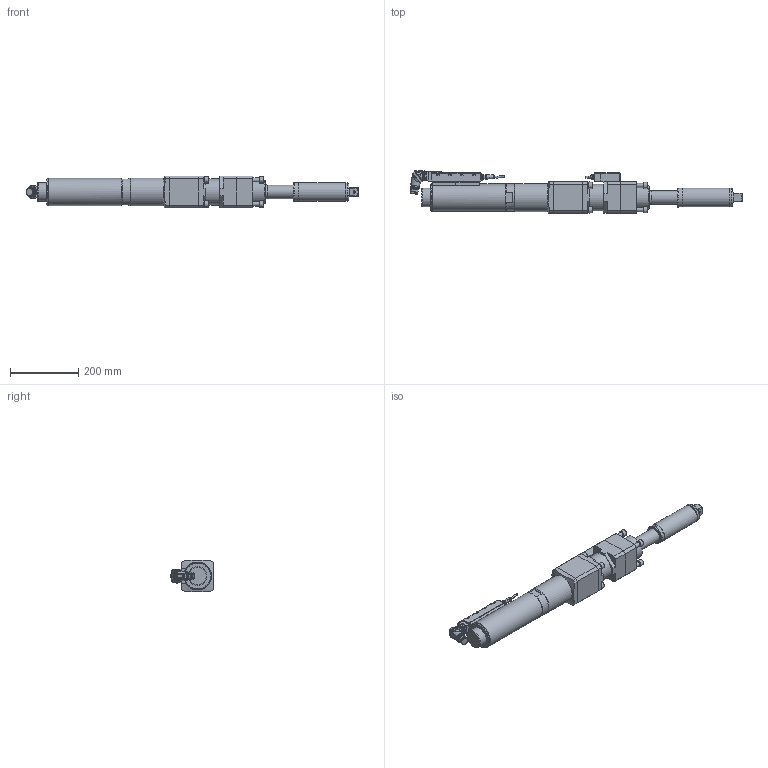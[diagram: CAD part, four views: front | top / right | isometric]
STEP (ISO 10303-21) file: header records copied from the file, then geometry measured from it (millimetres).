
FILE_DESCRIPTION (( 'STEP AP214' ), '1' );
FILE_NAME ('70082430_ESX5130DRX1300AZX580.STEP', '2016-11-14T09:37:00', ( 'admin' ), ( '' ), 'SwSTEP 2.0', 'SolidWorks 2014', '' );
FILE_SCHEMA (( 'AUTOMOTIVE_DESIGN' ));
Length unit declared in the file: millimetre
Products named in the file (11): 7002956_3; 70082374; 70082327; 70082313_ESX5130_Standard_Winkel; 70082293_2; 70057493_Standard_winkel; 70057493_4; 70057493_3; 70057493_2; 70082313; 70082430_ESX5130DRX1300AZX580
Assembly tree (10 placements, depth 4):
  70082430_ESX5130DRX1300AZX580
    70082313_ESX5130_Standard_Winkel
      70082313
      70057493_Standard_winkel
        70057493_2
        70057493_3
        70057493_4
      70082293_2
    70082327
    70082374
    7002956_3
Bounding box: 973.96 x 124.64 x 92 mm (x, y, z)
Volume: 4634294 mm3; surface area: 437584 mm2
Topology: 12 solids, 12 shells, 2304 faces, 6011 edges, 3902 vertices
Faces by surface type: plane 1160, cylinder 586, bspline 263, cone 225, torus 65, sphere 5
Full cylindrical faces by diameter (mm): 0.5 x7, 0.57 x14, 2 x3, 3 x4, 4.2 x9, 4.9 x3, 5 x8, 5.5 x12, 6 x2, 8.459 x2, 9.1 x1, 10.2 x8, 11 x1, 11.08 x1, 12 x12, 12.3 x1, 14 x2, 14.5 x2, 17.4 x1, 18 x12, 20 x1, 21.15 x1, 21.5 x1, 21.7 x1, 22.3 x1, 24.3 x1, 34 x3, 34.6 x2, 35.5 x1, 40 x1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
Entity records: 82907 total; most frequent: CARTESIAN_POINT 28259, ORIENTED_EDGE 11136, DIRECTION 9677, EDGE_CURVE 5568, VERTEX_POINT 3769, AXIS2_PLACEMENT_3D 3524, EDGE_LOOP 2795, VECTOR 2629
